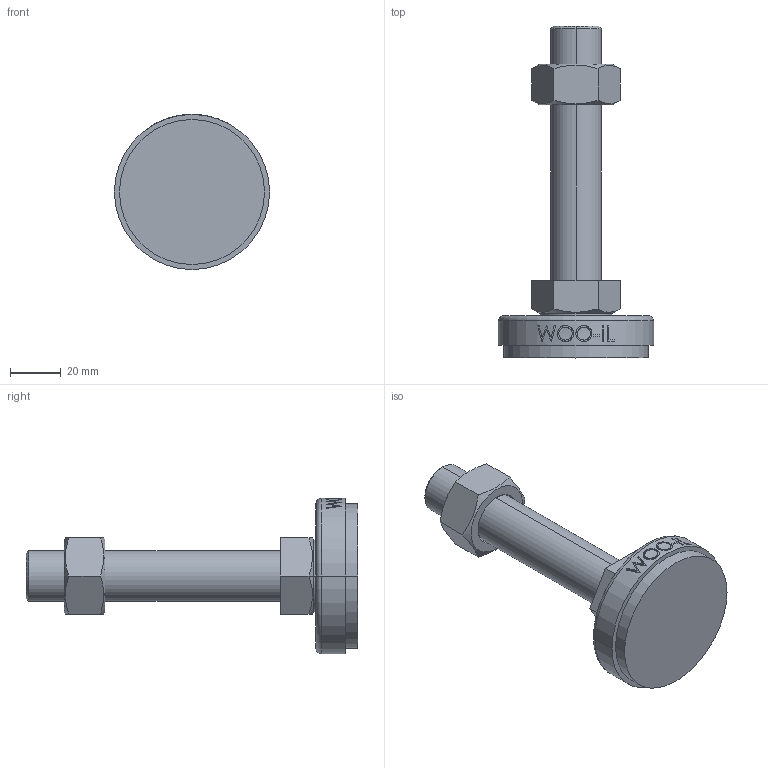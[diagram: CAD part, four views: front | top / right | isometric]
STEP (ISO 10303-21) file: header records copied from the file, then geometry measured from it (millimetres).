
FILE_DESCRIPTION (( 'STEP AP214' ), '1' );
FILE_NAME ('NS61-M20-100.step', '2021-01-11T05:46:29', ( '' ), ( '' ), 'SwSTEP 2.0', 'SolidWorks 2019', '' );
FILE_SCHEMA (( 'AUTOMOTIVE_DESIGN' ));
Length unit declared in the file: millimetre
Products named in the file (2): NS61-M20-100
Bounding box: 61 x 130.5 x 61 mm (x, y, z)
Volume: 95548.3 mm3; surface area: 21410.5 mm2
Topology: 3 solids, 3 shells, 96 faces, 227 edges, 148 vertices
Faces by surface type: plane 48, cylinder 18, bspline 16, cone 12, torus 2
Entity records: 4296 total; most frequent: CARTESIAN_POINT 2151, ORIENTED_EDGE 454, DIRECTION 381, EDGE_CURVE 227, VERTEX_POINT 148, AXIS2_PLACEMENT_3D 142, EDGE_LOOP 109, LINE 97
